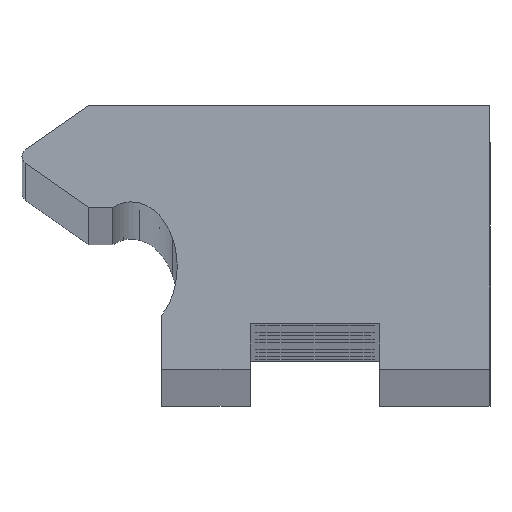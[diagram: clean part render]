
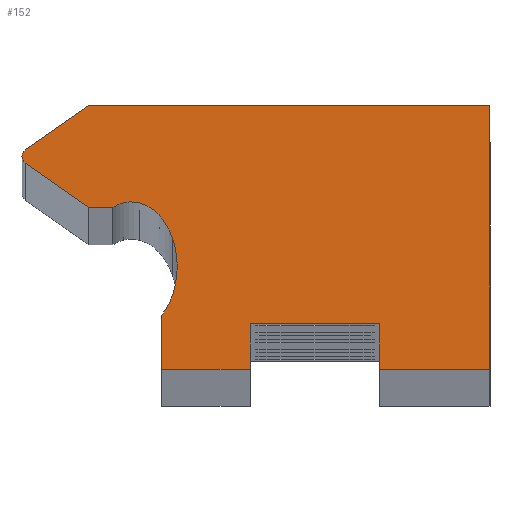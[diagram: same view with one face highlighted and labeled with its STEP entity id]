
A CAD part, top view. The second image highlights one B-rep face of the part: STEP entity #152.
In plain terms, the highlighted planar face has unit normal (0, 0, 1).
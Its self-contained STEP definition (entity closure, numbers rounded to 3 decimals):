
#152=ADVANCED_FACE('',(#341),#342,.F.);
#341=FACE_OUTER_BOUND('',#530,.T.);
#342=PLANE('',#531);
#530=EDGE_LOOP('',(#1132,#1133,#1134,#1135,#1136,#1137,#1138,#1139,#1140,#1141,#1142,#1143,#1144,#1145,#1146,#1147,#1148,#1149,#1150,#1151,#1152));
#531=AXIS2_PLACEMENT_3D('',#1153,#1154,#1155);
#1132=ORIENTED_EDGE('',*,*,#1350,.F.);
#1133=ORIENTED_EDGE('',*,*,#1298,.F.);
#1134=ORIENTED_EDGE('',*,*,#1302,.F.);
#1135=ORIENTED_EDGE('',*,*,#1305,.F.);
#1136=ORIENTED_EDGE('',*,*,#1308,.F.);
#1137=ORIENTED_EDGE('',*,*,#1311,.F.);
#1138=ORIENTED_EDGE('',*,*,#1313,.F.);
#1139=ORIENTED_EDGE('',*,*,#1161,.F.);
#1140=ORIENTED_EDGE('',*,*,#1316,.F.);
#1141=ORIENTED_EDGE('',*,*,#1319,.F.);
#1142=ORIENTED_EDGE('',*,*,#1322,.F.);
#1143=ORIENTED_EDGE('',*,*,#1325,.T.);
#1144=ORIENTED_EDGE('',*,*,#1328,.T.);
#1145=ORIENTED_EDGE('',*,*,#1331,.T.);
#1146=ORIENTED_EDGE('',*,*,#1334,.T.);
#1147=ORIENTED_EDGE('',*,*,#1335,.T.);
#1148=ORIENTED_EDGE('',*,*,#1159,.T.);
#1149=ORIENTED_EDGE('',*,*,#1339,.T.);
#1150=ORIENTED_EDGE('',*,*,#1342,.T.);
#1151=ORIENTED_EDGE('',*,*,#1345,.F.);
#1152=ORIENTED_EDGE('',*,*,#1348,.F.);
#1153=CARTESIAN_POINT('',(-2.671,13.018,1976.0));
#1154=DIRECTION('',(0.,0.0,-1.0));
#1155=DIRECTION('',(-1.0,0.0,0.));
#1159=EDGE_CURVE('',#1352,#1356,#1358,.T.);
#1161=EDGE_CURVE('',#1359,#1362,#1363,.T.);
#1298=EDGE_CURVE('',#1590,#1592,#1593,.T.);
#1302=EDGE_CURVE('',#1597,#1590,#1599,.T.);
#1305=EDGE_CURVE('',#1602,#1597,#1604,.T.);
#1308=EDGE_CURVE('',#1607,#1602,#1609,.T.);
#1311=EDGE_CURVE('',#1612,#1607,#1614,.T.);
#1313=EDGE_CURVE('',#1362,#1612,#1616,.T.);
#1316=EDGE_CURVE('',#1619,#1359,#1621,.T.);
#1319=EDGE_CURVE('',#1624,#1619,#1626,.T.);
#1322=EDGE_CURVE('',#1629,#1624,#1631,.T.);
#1325=EDGE_CURVE('',#1629,#1634,#1636,.T.);
#1328=EDGE_CURVE('',#1634,#1639,#1641,.T.);
#1331=EDGE_CURVE('',#1639,#1644,#1646,.T.);
#1334=EDGE_CURVE('',#1644,#1649,#1651,.T.);
#1335=EDGE_CURVE('',#1649,#1352,#1652,.T.);
#1339=EDGE_CURVE('',#1356,#1656,#1658,.T.);
#1342=EDGE_CURVE('',#1656,#1661,#1663,.T.);
#1345=EDGE_CURVE('',#1666,#1661,#1668,.T.);
#1348=EDGE_CURVE('',#1671,#1666,#1673,.T.);
#1350=EDGE_CURVE('',#1592,#1671,#1675,.T.);
#1352=VERTEX_POINT('',#1677);
#1356=VERTEX_POINT('',#1682);
#1358=CIRCLE('',#1685,7.92);
#1359=VERTEX_POINT('',#1686);
#1362=VERTEX_POINT('',#1690);
#1363=CIRCLE('',#1691,0.76);
#1590=VERTEX_POINT('',#1964);
#1592=VERTEX_POINT('',#1967);
#1593=LINE('',#1968,#1969);
#1597=VERTEX_POINT('',#1975);
#1599=LINE('',#1978,#1979);
#1602=VERTEX_POINT('',#1983);
#1604=LINE('',#1986,#1987);
#1607=VERTEX_POINT('',#1991);
#1609=LINE('',#1994,#1995);
#1612=VERTEX_POINT('',#1999);
#1614=LINE('',#2002,#2003);
#1616=LINE('',#2006,#2007);
#1619=VERTEX_POINT('',#2010);
#1621=CIRCLE('',#2013,0.76);
#1624=VERTEX_POINT('',#2017);
#1626=LINE('',#2020,#2021);
#1629=VERTEX_POINT('',#2025);
#1631=LINE('',#2028,#2029);
#1634=VERTEX_POINT('',#2032);
#1636=CIRCLE('',#2035,3.375);
#1639=VERTEX_POINT('',#2038);
#1641=CIRCLE('',#2041,3.022);
#1644=VERTEX_POINT('',#2044);
#1646=CIRCLE('',#2047,3.66);
#1649=VERTEX_POINT('',#2050);
#1651=CIRCLE('',#2053,6.08);
#1652=CIRCLE('',#2054,7.92);
#1656=VERTEX_POINT('',#2058);
#1658=CIRCLE('',#2061,8.253);
#1661=VERTEX_POINT('',#2064);
#1663=CIRCLE('',#2067,6.615);
#1666=VERTEX_POINT('',#2071);
#1668=LINE('',#2074,#2075);
#1671=VERTEX_POINT('',#2079);
#1673=LINE('',#2082,#2083);
#1675=LINE('',#2086,#2087);
#1677=CARTESIAN_POINT('',(-12.759,9.546,1976.0));
#1682=CARTESIAN_POINT('',(-12.761,9.388,1976.0));
#1685=AXIS2_PLACEMENT_3D('',#2093,#2094,#2095);
#1686=CARTESIAN_POINT('',(-27.125,19.7,1976.0));
#1690=CARTESIAN_POINT('',(-26.801,20.323,1976.0));
#1691=AXIS2_PLACEMENT_3D('',#2097,#2098,#2099);
#1964=CARTESIAN_POINT('',(6.,4.2,1976.0));
#1967=CARTESIAN_POINT('',(-6.,4.2,1976.0));
#1968=CARTESIAN_POINT('',(6.,4.2,1976.0));
#1969=VECTOR('',#2414,1.0);
#1975=CARTESIAN_POINT('',(6.,0.0,1976.0));
#1978=CARTESIAN_POINT('',(6.,0.0,1976.0));
#1979=VECTOR('',#2418,1.0);
#1983=CARTESIAN_POINT('',(16.2,0.0,1976.0));
#1986=CARTESIAN_POINT('',(16.2,0.0,1976.0));
#1987=VECTOR('',#2421,1.0);
#1991=CARTESIAN_POINT('',(16.2,24.41,1976.0));
#1994=CARTESIAN_POINT('',(16.2,24.41,1976.0));
#1995=VECTOR('',#2424,1.0);
#1999=CARTESIAN_POINT('',(-20.963,24.41,1976.0));
#2002=CARTESIAN_POINT('',(-20.963,24.41,1976.0));
#2003=VECTOR('',#2427,1.0);
#2006=CARTESIAN_POINT('',(-26.801,20.323,1976.0));
#2007=VECTOR('',#2429,1.0);
#2010=CARTESIAN_POINT('',(-26.801,19.077,1976.0));
#2013=AXIS2_PLACEMENT_3D('',#2434,#2435,#2436);
#2017=CARTESIAN_POINT('',(-20.949,14.98,1976.0));
#2020=CARTESIAN_POINT('',(-20.949,14.98,1976.0));
#2021=VECTOR('',#2439,1.0);
#2025=CARTESIAN_POINT('',(-18.711,14.98,1976.0));
#2028=CARTESIAN_POINT('',(-18.711,14.98,1976.0));
#2029=VECTOR('',#2442,1.0);
#2032=CARTESIAN_POINT('',(-17.698,15.408,1976.0));
#2035=AXIS2_PLACEMENT_3D('',#2447,#2448,#2449);
#2038=CARTESIAN_POINT('',(-16.233,15.391,1976.0));
#2041=AXIS2_PLACEMENT_3D('',#2454,#2455,#2456);
#2044=CARTESIAN_POINT('',(-14.442,14.284,1976.0));
#2047=AXIS2_PLACEMENT_3D('',#2461,#2462,#2463);
#2050=CARTESIAN_POINT('',(-13.183,12.101,1976.0));
#2053=AXIS2_PLACEMENT_3D('',#2468,#2469,#2470);
#2054=AXIS2_PLACEMENT_3D('',#2471,#2472,#2473);
#2058=CARTESIAN_POINT('',(-13.14,7.008,1976.0));
#2061=AXIS2_PLACEMENT_3D('',#2481,#2482,#2483);
#2064=CARTESIAN_POINT('',(-14.2,4.984,1976.0));
#2067=AXIS2_PLACEMENT_3D('',#2488,#2489,#2490);
#2071=CARTESIAN_POINT('',(-14.2,0.0,1976.0));
#2074=CARTESIAN_POINT('',(-14.2,0.0,1976.0));
#2075=VECTOR('',#2493,1.0);
#2079=CARTESIAN_POINT('',(-6.,0.0,1976.0));
#2082=CARTESIAN_POINT('',(-6.,0.0,1976.0));
#2083=VECTOR('',#2496,1.0);
#2086=CARTESIAN_POINT('',(-6.,4.2,1976.0));
#2087=VECTOR('',#2498,1.0);
#2093=CARTESIAN_POINT('',(-20.679,9.546,1976.0));
#2094=DIRECTION('',(0.,0.0,-1.0));
#2095=DIRECTION('',(-1.0,0.0,0.));
#2097=CARTESIAN_POINT('',(-26.365,19.7,1976.0));
#2098=DIRECTION('',(0.,0.0,-1.0));
#2099=DIRECTION('',(-1.0,0.0,0.));
#2414=DIRECTION('',(-1.0,0.0,0.));
#2418=DIRECTION('',(0.0,1.0,0.0));
#2421=DIRECTION('',(-1.0,0.0,0.));
#2424=DIRECTION('',(0.0,-1.0,-0.0));
#2427=DIRECTION('',(1.0,0.0,0.));
#2429=DIRECTION('',(0.819,0.574,0.));
#2434=CARTESIAN_POINT('',(-26.365,19.7,1976.0));
#2435=DIRECTION('',(0.,0.0,-1.0));
#2436=DIRECTION('',(-1.0,0.0,0.));
#2439=DIRECTION('',(-0.819,0.574,0.));
#2442=DIRECTION('',(-1.0,0.0,0.));
#2447=CARTESIAN_POINT('',(-16.907,12.127,1976.0));
#2448=DIRECTION('',(0.,0.0,-1.0));
#2449=DIRECTION('',(-1.0,0.0,0.));
#2454=CARTESIAN_POINT('',(-17.,12.468,1976.0));
#2455=DIRECTION('',(0.,0.0,-1.0));
#2456=DIRECTION('',(-1.0,0.0,0.));
#2461=CARTESIAN_POINT('',(-17.181,11.856,1976.0));
#2462=DIRECTION('',(0.,0.0,-1.0));
#2463=DIRECTION('',(-1.0,0.0,0.));
#2468=CARTESIAN_POINT('',(-18.964,10.219,1976.0));
#2469=DIRECTION('',(0.,0.0,-1.0));
#2470=DIRECTION('',(-1.0,0.0,0.));
#2471=CARTESIAN_POINT('',(-20.679,9.546,1976.0));
#2472=DIRECTION('',(0.,0.0,-1.0));
#2473=DIRECTION('',(-1.0,0.0,0.));
#2481=CARTESIAN_POINT('',(-21.013,9.483,1976.0));
#2482=DIRECTION('',(0.,0.0,-1.0));
#2483=DIRECTION('',(-1.0,0.0,0.));
#2488=CARTESIAN_POINT('',(-19.441,9.02,1976.0));
#2489=DIRECTION('',(0.,0.0,-1.0));
#2490=DIRECTION('',(-1.0,0.0,0.));
#2493=DIRECTION('',(0.0,1.0,0.0));
#2496=DIRECTION('',(-1.0,0.0,0.));
#2498=DIRECTION('',(0.0,-1.0,-0.0));
